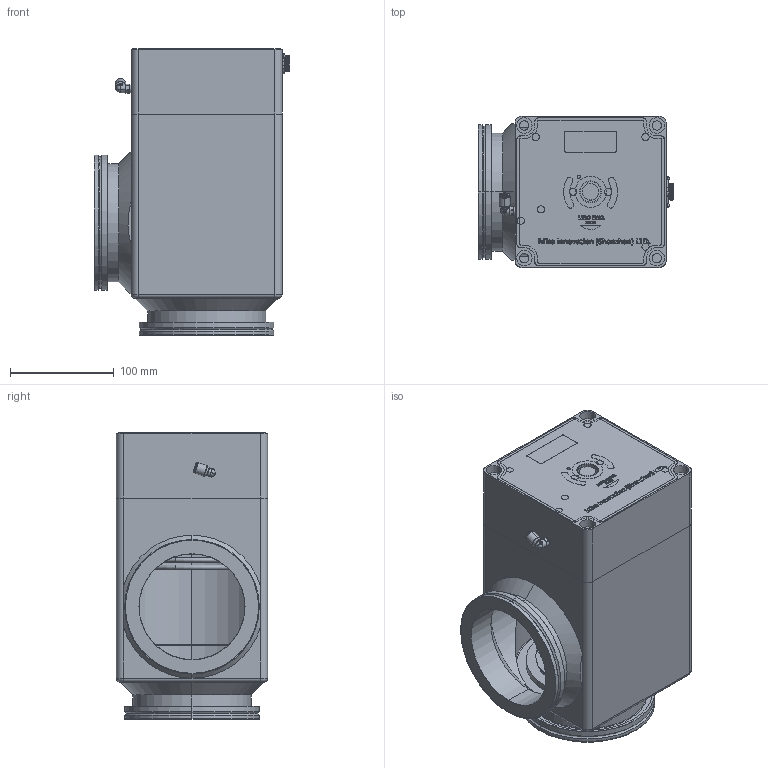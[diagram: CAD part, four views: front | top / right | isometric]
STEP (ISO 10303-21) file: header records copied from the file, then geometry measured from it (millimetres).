
FILE_DESCRIPTION (( 'STEP AP203' ), '1' );
FILE_NAME ('ISO-K DN100 angle valve.STEP', '2025-06-18T11:27:59', ( '' ), ( '' ), 'SwSTEP 2.0', 'SolidWorks 2023', '' );
FILE_SCHEMA (( 'CONFIG_CONTROL_DESIGN' ));
Products named in the file (1): ISO-K DN100 angle valve
Bounding box: 188.6 x 146 x 276.2 mm (x, y, z)
Surface area: 395521.7 mm2 (no closed solid volume)
Topology: 0 solids, 72 shells, 448 faces, 2310 edges, 1915 vertices
Faces by surface type: plane 163, cylinder 150, torus 78, cone 32, bspline 23, sphere 2
Entity records: 34065 total; most frequent: CARTESIAN_POINT 17368, DIRECTION 3047, ORIENTED_EDGE 2988, EDGE_CURVE 2299, VERTEX_POINT 1915, AXIS2_PLACEMENT_3D 1085, VECTOR 877, LINE 877
